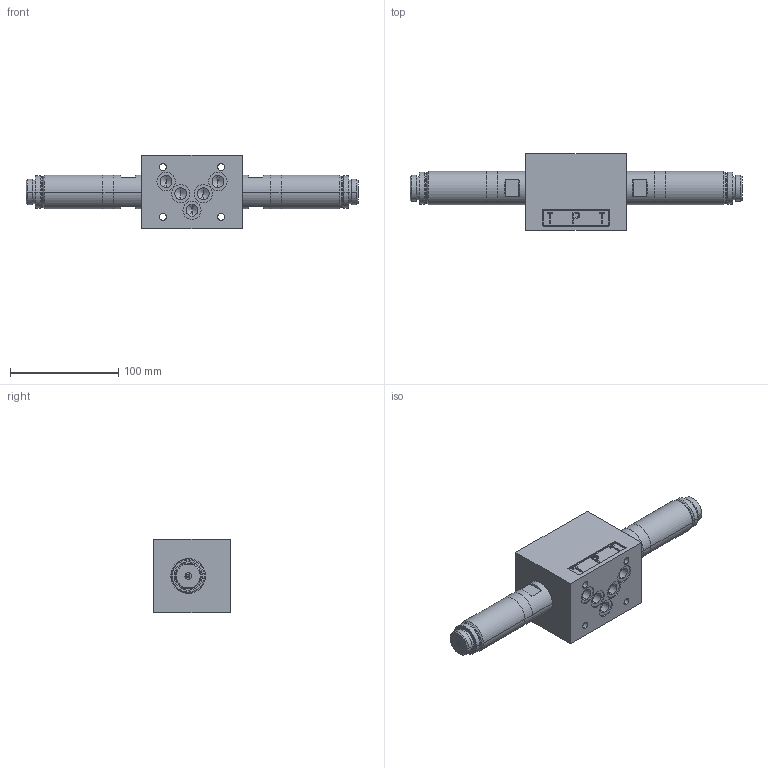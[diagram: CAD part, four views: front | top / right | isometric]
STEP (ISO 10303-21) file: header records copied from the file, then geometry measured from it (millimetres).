
FILE_DESCRIPTION (( 'STEP AP214' ), '1' );
FILE_NAME ('WDMFA10-4_3.STEP', '2014-07-14T09:51:54', ( '' ), ( '' ), 'SwSTEP 2.0', 'SolidWorks 2014', '' );
FILE_SCHEMA (( 'AUTOMOTIVE_DESIGN' ));
Length unit declared in the file: millimetre
Products named in the file (2): WDMFA10-4_3
Bounding box: 307 x 71 x 68 mm (x, y, z)
Volume: 545584.3 mm3; surface area: 117059.9 mm2
Topology: 25 solids, 25 shells, 594 faces, 1285 edges, 749 vertices
Faces by surface type: cylinder 232, plane 141, cone 126, torus 56, bspline 31, sphere 8
Entity records: 23844 total; most frequent: CARTESIAN_POINT 3959, DIRECTION 2943, ORIENTED_EDGE 2510, EDGE_CURVE 1255, AXIS2_PLACEMENT_3D 1193, VERTEX_POINT 749, EDGE_LOOP 690, CIRCLE 628
